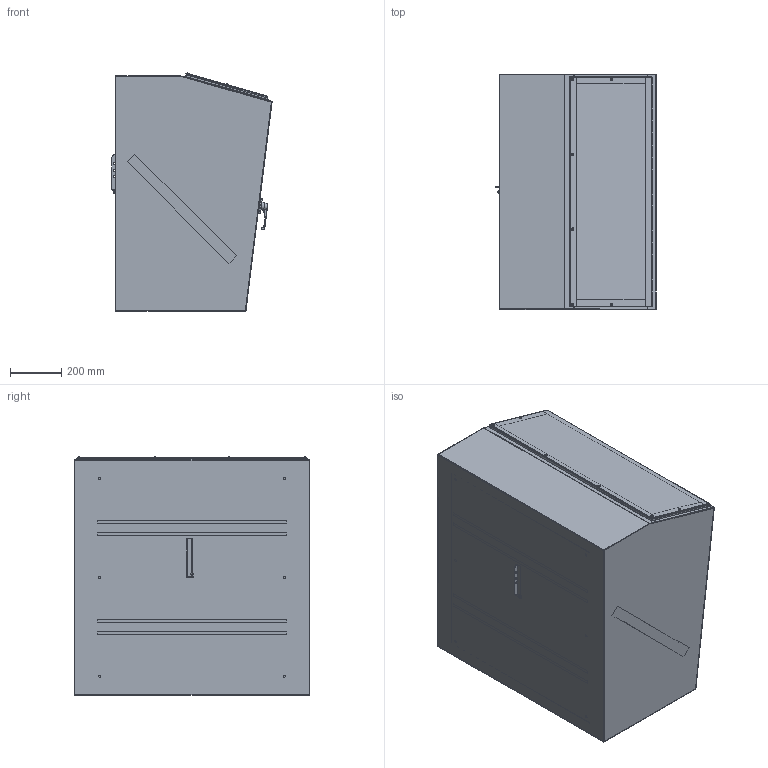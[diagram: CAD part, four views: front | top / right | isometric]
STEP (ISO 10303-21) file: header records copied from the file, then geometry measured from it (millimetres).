
FILE_DESCRIPTION(/* description */ ('Unknown'),/* implementation_level */ '2;1');
FILE_NAME(/* name */ '1472-36',/* time_stamp */ '2018-12-20T15:12:57-05:00',/* author */ ('Unknown'),/* organization */ ('Unknown'),/* preprocessor_version */ 'ST-DEVELOPER v16.7',/* originating_system */ 'DEX',/* authorisation */ $);
FILE_SCHEMA (('AUTOMOTIVE_DESIGN {1 0 10303 214 3 1 1}'));
Length unit declared in the file: millimetre
Products named in the file (60): 1472-36; COM49065; COM49055-1; COM40584; COM49055; COM49050-1; COM49058; HNG10515_BARREL; COM49061-1; HNG10515; HNG10515_BODY; HNG10515_BRACKET; STD21878; COM12540-2; COM49061; COM49050; COM49052; COM49047; COM51827; RVT19006; WAF24955; ROL18052; COM51827-1; COM71100-1; COM50513; PIN17618; WAF250205; ROL18050; COM55702-18; COM70775; QLB20204; GSK10065_oa_0; AKT90714_oa_1; scs189755; WAL253528; LOC13397; NTS166105; WAL25163; GSK11092; LOC13070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
Assembly tree (101 placements, depth 4):
  1472-36
    COM49065  x2
    COM49055-1
      COM40584
      COM49055
    COM49050-1
    COM49058
    HNG10515_BARREL  x2
    COM49061-1
      HNG10515  x2
        HNG10515_BODY
        HNG10515_BRACKET
      STD21878
      COM12540-2  x2
      COM49061
    COM49050
    COM49052
    COM49047
    COM51827  x2
      RVT19006
      WAF24955
      ROL18052
      COM51827-1
    COM71100-1
      COM50513
        PIN17618
        WAF250205  x2
        ROL18050
      COM71100-1
    COM55702-18  x2
    COM70775  x2
    QLB20204
    GSK10065_oa_0
    AKT90714_oa_1
      scs189755  x2
      WAL253528  x2
      WAF250205  x2
      LOC13397
      NTS166105  x2
      WAL25163
      GSK11092
      LOC13070
    GSK10065_oa_2
    GSK10065_oa_3
    GSK10065_oa_4
    GSK10090_oa_5
    STD21878
    GSK10090_oa_6
    STD26094  x6
    GSK10090_oa_7
    RVN01002  x6
    RNG17670  x6
    GSK10090_oa_8
    SCS18975  x6
    PKT99
    KIT90256
      LAB30005
      NTS165305
      NTS16535
    AKT95002  x6
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Bounding box: 622.29 x 914.4 x 925.18 mm (x, y, z)
Volume: 9839457.7 mm3; surface area: 10063621.7 mm2
Topology: 102 solids, 102 shells, 2211 faces, 5733 edges, 3770 vertices
Faces by surface type: plane 1341, cylinder 588, bspline 177, torus 73, cone 28, sphere 4
Full cylindrical faces by diameter (mm): 2.54 x70, 3.239 x2, 3.967 x2, 4.039 x6, 4.2 x4, 4.572 x8, 4.763 x8, 4.801 x2, 4.976 x1, 4.978 x2, 5.334 x4, 5.461 x4, 5.537 x6, 5.563 x1, 5.994 x4, 6.35 x10, 6.985 x6, 7.137 x2, 7.805 x8, 7.938 x4, 8.382 x6, 9.525 x6, 9.906 x6, 10.211 x8, 11.303 x6, 12.7 x12, 15.24 x1, 16.51 x6, 19.05 x4, 20.904 x1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
Entity records: 51987 total; most frequent: CARTESIAN_POINT 12053, ORIENTED_EDGE 8032, DIRECTION 7505, EDGE_CURVE 4016, VERTEX_POINT 2719, LINE 2661, VECTOR 2661, AXIS2_PLACEMENT_3D 2422
